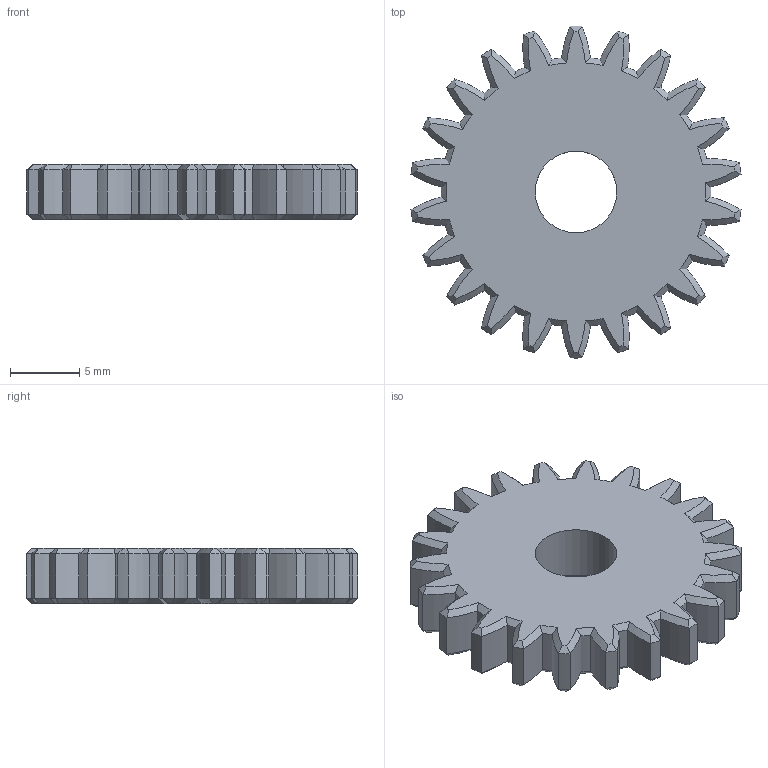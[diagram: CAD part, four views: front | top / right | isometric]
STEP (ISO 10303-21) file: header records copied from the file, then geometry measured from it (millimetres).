
FILE_DESCRIPTION(/* description */ (''),/* implementation_level */ '2;1');
FILE_NAME(/* name */ '\\192.168.3.8\kumagai\Develop\CAD\NakataOmni\DriveUnitR3\PlanetaryGear_idle.stp',/* time_stamp */ '2024-05-21T07:56:02+09:00',/* author */ ('kumagai'),/* organization */ (''),/* preprocessor_version */ 'ST-DEVELOPER v19',/* originating_system */ 'Autodesk Inventor 2023',/* authorisation */ '');
FILE_SCHEMA (('AUTOMOTIVE_DESIGN { 1 0 10303 214 3 1 1 }'));
Length unit declared in the file: millimetre
Products named in the file (1): 平歯車1
Bounding box: 23.86 x 24 x 4 mm (x, y, z)
Volume: 1376.9 mm3; surface area: 1265.1 mm2
Topology: 1 solids, 1 shells, 267 faces, 619 edges, 354 vertices
Faces by surface type: cone 176, cylinder 89, plane 2
Full cylindrical faces by diameter (mm): 5.9 x1
Entity records: 7762 total; most frequent: CARTESIAN_POINT 1769, DIRECTION 1333, ORIENTED_EDGE 1238, AXIS2_PLACEMENT_3D 622, EDGE_CURVE 619, CIRCLE 354, VERTEX_POINT 354, EDGE_LOOP 269
